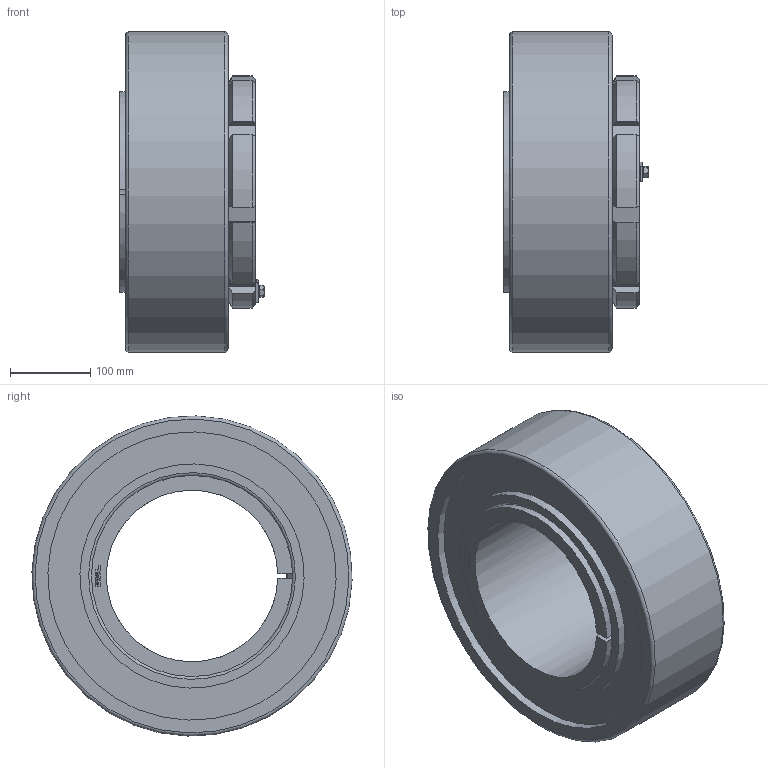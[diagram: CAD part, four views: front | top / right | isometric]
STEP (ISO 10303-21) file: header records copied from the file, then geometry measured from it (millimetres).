
FILE_DESCRIPTION( ( 'STEP AP203' ), ' ' );
FILE_NAME( 'p:/temp/worker_349/1960_4244/app_90_02016102822385095712821192d056f_000000_00_00_000000/format_0/BGL HA 3148 TL+C3148K.stp', '2016-10-28T20:38:52', ( '' ), ( '' ), ' ', 'PARTsolutions', ' ' );
FILE_SCHEMA( ( 'CONFIG_CONTROL_DESIGN' ) );
Length unit declared in the file: millimetre
Products named in the file (6): BGL HA 3148 TL+C3148K; _BGLHA3148TLB; _BGL HM 3048; _BGLHA3148TL+HA-C3148K; _BGL MS 3048-BGL MS 3052part; _BGL MS 3048-BGL MS 3052HHS
Assembly tree (5 placements, depth 2):
  BGL HA 3148 TL+C3148K
    _BGLHA3148TLB
    _BGL HM 3048
    _BGLHA3148TL+HA-C3148K
    _BGL MS 3048-BGL MS 3052part
    _BGL MS 3048-BGL MS 3052HHS
Bounding box: 180.05 x 399.86 x 399.86 mm (x, y, z)
Volume: 11610220.9 mm3; surface area: 822548.2 mm2
Topology: 5 solids, 5 shells, 351 faces, 899 edges, 589 vertices
Faces by surface type: plane 230, cylinder 79, cone 38, torus 4
Full cylindrical faces by diameter (mm): 8 x9, 9 x1, 14.8 x1, 236 x1, 280 x2, 360 x2, 400 x1
Entity records: 10762 total; most frequent: CARTESIAN_POINT 2104, DIRECTION 1729, ORIENTED_EDGE 1726, EDGE_CURVE 863, VERTEX_POINT 586, AXIS2_PLACEMENT_3D 577, LINE 575, VECTOR 575
